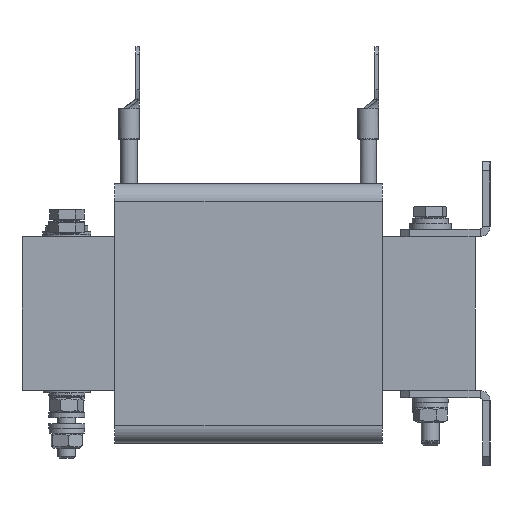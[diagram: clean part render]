
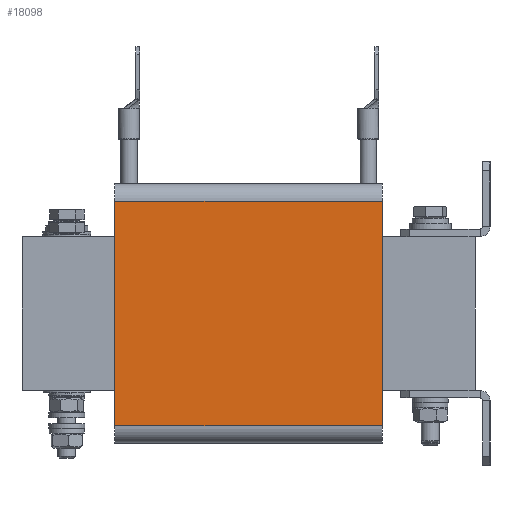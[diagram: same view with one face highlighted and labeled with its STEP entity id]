
A CAD part, left-side view. The second image highlights one B-rep face of the part: STEP entity #18098.
In plain terms, the highlighted planar face has unit normal (-1, 0, 0).
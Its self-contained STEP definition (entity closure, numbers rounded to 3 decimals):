
#1689=LINE('',#31319,#3161);
#1697=LINE('',#31344,#3169);
#1713=LINE('',#31397,#3185);
#1714=LINE('',#31399,#3186);
#3161=VECTOR('',#23003,10.);
#3169=VECTOR('',#23021,10.);
#3185=VECTOR('',#23067,10.);
#3186=VECTOR('',#23070,10.);
#4195=PLANE('',#19548);
#5444=FACE_OUTER_BOUND('',#6735,.T.);
#6735=EDGE_LOOP('',(#15403,#15404,#15405,#15406));
#8947=VERTEX_POINT('',#31316);
#8948=VERTEX_POINT('',#31318);
#8959=VERTEX_POINT('',#31341);
#8960=VERTEX_POINT('',#31343);
#11209=EDGE_CURVE('',#8947,#8948,#1689,.T.);
#11221=EDGE_CURVE('',#8959,#8960,#1697,.T.);
#11249=EDGE_CURVE('',#8960,#8947,#1713,.T.);
#11250=EDGE_CURVE('',#8959,#8948,#1714,.T.);
#15403=ORIENTED_EDGE('',*,*,#11249,.F.);
#15404=ORIENTED_EDGE('',*,*,#11221,.F.);
#15405=ORIENTED_EDGE('',*,*,#11250,.T.);
#15406=ORIENTED_EDGE('',*,*,#11209,.F.);
#18098=ADVANCED_FACE('',(#5444),#4195,.T.);
#19548=AXIS2_PLACEMENT_3D('',#31398,#23068,#23069);
#23003=DIRECTION('',(0.,0.,-1.));
#23021=DIRECTION('',(0.,0.,1.));
#23067=DIRECTION('',(0.,-1.,0.));
#23068=DIRECTION('center_axis',(-1.,0.,0.));
#23069=DIRECTION('ref_axis',(0.,0.,1.));
#23070=DIRECTION('',(0.,-1.,0.));
#31316=CARTESIAN_POINT('',(-89.,-44.7,37.6));
#31318=CARTESIAN_POINT('',(-89.,-44.7,-37.6));
#31319=CARTESIAN_POINT('',(-89.,-44.7,37.6));
#31341=CARTESIAN_POINT('',(-89.,44.7,-37.6));
#31343=CARTESIAN_POINT('',(-89.,44.7,37.6));
#31344=CARTESIAN_POINT('',(-89.,44.7,37.6));
#31397=CARTESIAN_POINT('',(-89.,0.,37.6));
#31398=CARTESIAN_POINT('Origin',(-89.,0.,-37.6));
#31399=CARTESIAN_POINT('',(-89.,0.,-37.6));
